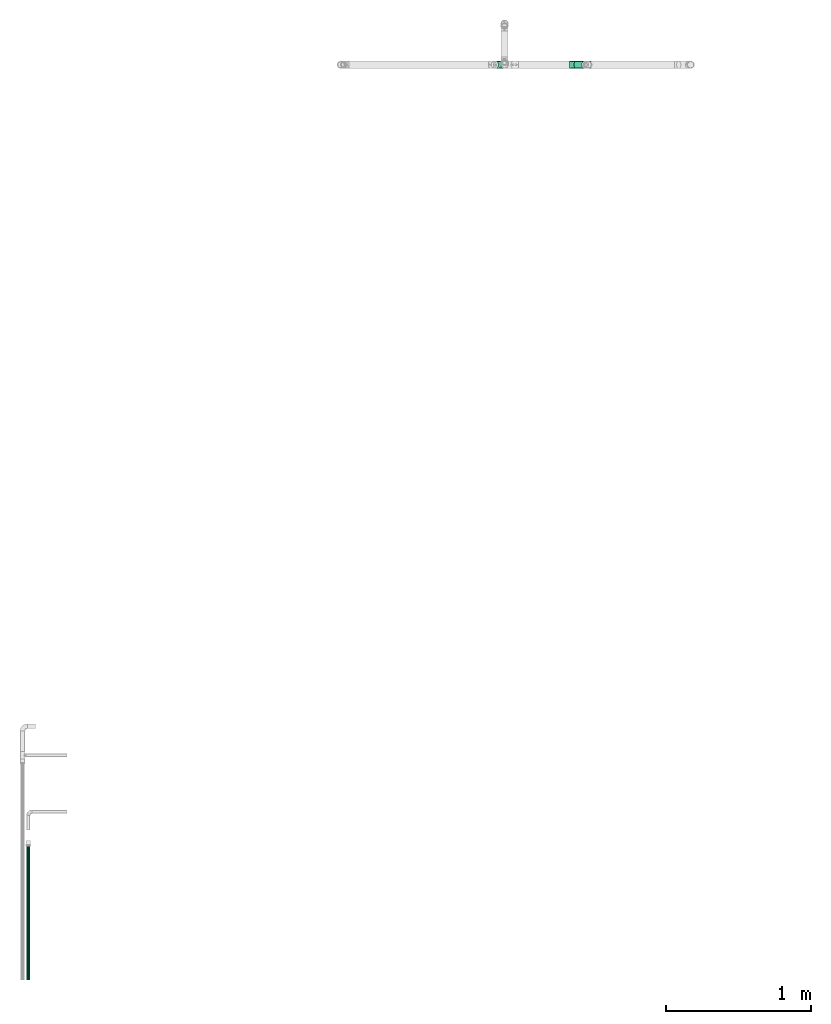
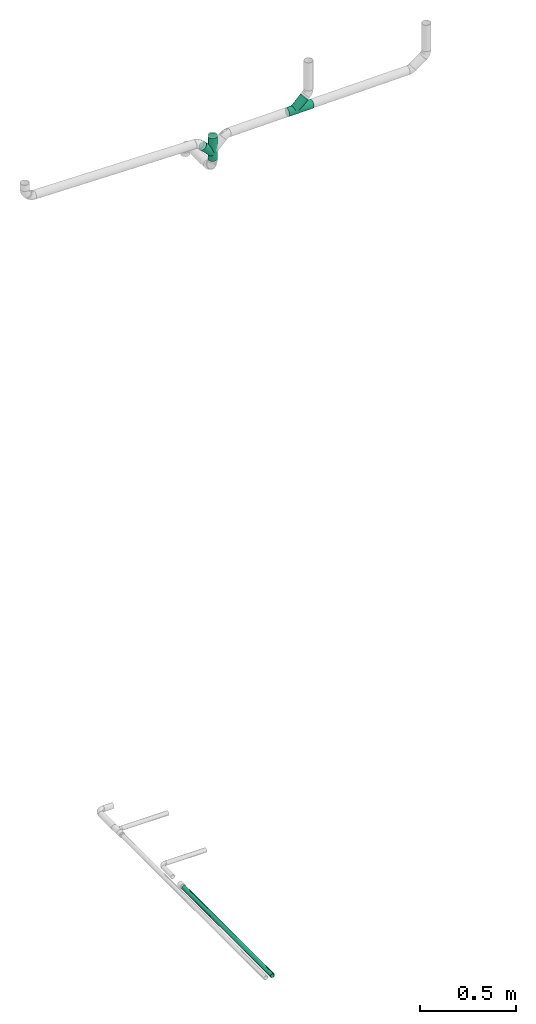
# One storey, part 11 of 13: 2 flow fittings, 1 flow segment.
"""IFC2X3 building model written with IfcOpenShell, lengths in millimetres."""

from ifc_helpers import new_model, entity, si_unit, converted_unit, derived_unit, direction, frame, origin_with_axes, place, context, subcontext, project, spatial, open_shell, faceted_brep, surface_model, source, transform, mapped, type_object, element, save


model = new_model("IFC2X3")

# Units and contexts
model_context = context("Model", 3, precision=0.01, world=frame((0.0, 4.29681676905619e-09, 0.0)), true_north=direction((4.01073788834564e-13, 1.0)))
plan_context = context("Plan", 3, precision=0.01, world=frame((0.0, 4.29681676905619e-09, 0.0)), true_north=direction((4.01073788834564e-13, 1.0)))
body_context = subcontext(model_context, "Body", "Model", "MODEL_VIEW")
ifc_project = project(units=[converted_unit("PLANEANGLEUNIT", "DEGREE", entity("IfcPositiveLengthMeasure", 0.0174532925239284), si_unit("PLANEANGLEUNIT", "RADIAN"), dimensions=[0, 0, 0, 0, 0, 0, 0]), si_unit("AREAUNIT", "SQUARE_METRE"), si_unit("LENGTHUNIT", "METRE", prefix="MILLI"), si_unit("MASSUNIT", "GRAM", prefix="KILO"), si_unit("POWERUNIT", "WATT"), si_unit("PRESSUREUNIT", "PASCAL", prefix="KILO"), si_unit("FORCEUNIT", "NEWTON", prefix="KILO"), si_unit("ELECTRICVOLTAGEUNIT", "VOLT"), si_unit("ELECTRICCURRENTUNIT", "AMPERE"), si_unit("THERMODYNAMICTEMPERATUREUNIT", "DEGREE_CELSIUS"), si_unit("TIMEUNIT", "SECOND"), si_unit("VOLUMEUNIT", "CUBIC_METRE"), derived_unit("LINEARVELOCITYUNIT", [(si_unit("LENGTHUNIT", "METRE"), 1), (si_unit("TIMEUNIT", "SECOND"), -1)]), derived_unit("VOLUMETRICFLOWRATEUNIT", [(si_unit("VOLUMEUNIT", "CUBIC_METRE"), 1), (si_unit("TIMEUNIT", "SECOND"), -1)]), derived_unit("THERMALTRANSMITTANCEUNIT", [(si_unit("POWERUNIT", "WATT"), 1), (si_unit("THERMODYNAMICTEMPERATUREUNIT", "KELVIN"), -1), (si_unit("AREAUNIT", "SQUARE_METRE"), -1)]), derived_unit("SOUNDPRESSUREUNIT", [(si_unit("PRESSUREUNIT", "PASCAL"), 1)])], contexts=[model_context, plan_context])

# Site, building, storey
site_placement = place(None, frame((0.0, -4.29681676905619e-09, 0.0), z_axis=(0.0, 0.0, 1.0), x_axis=(1.0, 0.0, 0.0)))
site = spatial("IfcSite", under=ifc_project, at=site_placement, Name="ENGM", CompositionType="ELEMENT")
building_placement = place(site_placement, frame((0.0, 4.29681676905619e-09, 0.0), z_axis=(0.0, 0.0, 1.0), x_axis=(1.0, 0.0, 0.0)))
building = spatial("IfcBuilding", under=site, at=building_placement, Name="TI", CompositionType="ELEMENT")
storey_placement = place(building_placement, frame((0.0, 0.0, 210900.0), z_axis=(0.0, 0.0, 1.0), x_axis=(1.0, 0.0, 0.0)))
storey = spatial("IfcBuildingStorey", under=building, at=storey_placement, Name="Nivå F", CompositionType="ELEMENT", Elevation=210900.0)

# Flow fittings
pipe_fitting_type = type_object("IfcPipeFittingType", Name="magi_sewer_tee_wye_NOR_2", PredefinedType="JUNCTION")
shared_shape_1 = source(origin_with_axes(), body_context, "Body", "SurfaceModel", [
    surface_model("IfcShellBasedSurfaceModel", [(103.03301, 6.47048, -24.14815), (103.03301, 12.5, -21.65064), (103.03301, 17.67767, -17.67767), (103.03301, 21.65064, -12.5), (103.03301, 24.14815, -6.47048), (103.03301, 0.0, -25.0), (103.03301, 25.0, 0.0), (103.03301, -12.5, -21.65064), (103.03301, -6.47048, -24.14815), (103.03301, -17.67767, -17.67767), (103.03301, -24.14815, -6.47048), (103.03301, -21.65064, -12.5), (103.03301, -24.14815, 6.47048), (103.03301, 24.14815, 6.47048), (103.03301, 21.65064, 12.5), (103.03301, 17.67767, 17.67767), (103.03301, 6.47048, 24.14815), (103.03301, 0.0, 25.0), (103.03301, 12.5, 21.65064), (103.03301, -17.67767, 17.67767), (103.03301, -21.65064, 12.5), (103.03301, -25.0, 0.0), (103.03301, -6.47048, 24.14815), (103.03301, -12.5, 21.65064), (-42.67767, 24.14815, 6.47048), (-42.67767, 0.0, 25.0), (-42.67767, 6.47048, 24.14815), (-42.67767, 12.5, 21.65064), (-42.67767, 17.67767, 17.67767), (-42.67767, 21.65064, 12.5), (-42.67767, -17.67767, 17.67767), (-42.67767, -6.47048, 24.14815), (-42.67767, -12.5, 21.65064), (-42.67767, -24.14815, 6.47048), (-42.67767, -21.65064, 12.5), (-42.67767, -12.5, -21.65064), (-42.67767, -24.14815, -6.47048), (-42.67767, -25.0, 0.0), (-42.67767, 24.14815, -6.47048), (-42.67767, 6.47048, -24.14815), (-42.67767, 21.65064, -12.5), (-42.67767, 17.67767, -17.67767), (-42.67767, 12.5, -21.65064), (-42.67767, -17.67767, -17.67767), (-42.67767, -21.65064, -12.5), (-42.67767, -6.47048, -24.14815), (-42.67767, 0.0, -25.0), (-42.67767, 25.0, 0.0), (-42.67767, -24.57407, -3.23524), (-10.13959, -24.47915, -5.07655), (-42.67767, -15.08884, -19.66415), (-5.59336, -13.50355, -21.03935), (-6.38305, -15.41004, -19.53546), (-10.24747, -24.73957, -2.53827), (-9.82347, -23.71596, -7.49232), (-42.67767, -22.89939, -9.48524), (-9.50735, -22.95277, -9.9081), (-7.17274, -17.31653, -18.03157), (-7.83599, -18.91774, -16.15674), (-42.67767, -19.66415, -15.08884), (-8.49923, -20.51895, -14.2819), (-1.9435, -4.69202, -24.55575), (-42.67767, -3.23524, -24.57407), (-9.00329, -21.73586, -12.095), (56.02352, -23.2057, -9.30029), (58.18943, -24.10285, -4.65015), (103.03301, -24.57407, -3.23524), (60.35534, -25.0, 0.0), (103.03301, -22.89939, -9.48524), (51.95736, -21.52144, -12.25748), (47.8912, -19.83718, -15.21467), (-10.35534, -25.0, 0.0), (-3.8286, -9.24306, -23.22856), (38.77265, -16.06016, -19.15911), (29.27032, -12.12416, -21.86332), (19.58893, -8.114, -23.64663), (-42.67767, -9.48524, -22.89939), (0.0, 0.0, -25.0), (9.81266, -4.06453, -24.66738), (-42.67767, -3.23524, 24.57407), (-1.9435, -4.69202, 24.55575), (0.0, 0.0, 25.0), (-3.8286, -9.24306, 23.22856), (-42.67767, -9.48524, 22.89939), (56.02352, -23.2057, 9.30029), (103.03301, -22.89939, 9.48524), (-42.67767, -19.66415, 15.08884), (-8.49923, -20.51895, 14.2819), (-7.83599, -18.91774, 16.15674), (103.03301, -24.57407, 3.23524), (58.18943, -24.10285, 4.65015), (9.81266, -4.06453, 24.66738), (19.58893, -8.114, 23.64663), (-5.59336, -13.50355, 21.03935), (-42.67767, -15.08884, 19.66415), (-7.17274, -17.31653, 18.03157), (-9.50735, -22.95277, 9.9081), (-9.00329, -21.73586, 12.095), (-6.38305, -15.41004, 19.53546), (-10.24747, -24.73957, 2.53827), (-42.67767, -22.89939, 9.48524), (-9.82347, -23.71596, 7.49232), (-10.13959, -24.47915, 5.07655), (-42.67767, -24.57407, 3.23524), (38.77265, -16.06016, 19.15911), (29.27032, -12.12416, 21.86332), (47.8912, -19.83718, 15.21467), (51.95736, -21.52144, 12.25748), (69.19418, -51.5165, 21.65064), (75.66465, -45.04603, 12.5), (72.85534, -47.85534, 17.67767), (42.67767, -78.03301, 0.0), (43.28003, -77.43066, 6.47048), (47.85535, -72.85534, 17.67767), (51.51651, -69.19417, 21.65064), (45.04603, -75.66465, 12.5), (55.78003, -64.93066, 24.14815), (77.73184, -42.97884, 3.23524), (78.03301, -42.67767, 0.0), (77.43066, -43.28002, 6.47048), (76.54765, -44.16302, 9.48524), (60.35535, -60.35534, 25.0), (64.93066, -55.78002, 24.14815), (77.43066, -43.28002, -6.47048), (77.73184, -42.97884, -3.23524), (72.85534, -47.85534, -17.67767), (69.19418, -51.5165, -21.65064), (76.54765, -44.16302, -9.48524), (75.66465, -45.04603, -12.5), (64.93066, -55.78002, -24.14815), (60.35535, -60.35534, -25.0), (55.78003, -64.93066, -24.14815), (51.51651, -69.19417, -21.65064), (45.04603, -75.66465, -12.5), (43.28003, -77.43066, -6.47048), (47.85535, -72.85534, -17.67767)], [open_shell([[[0, 1, 2]], [[0, 2, 3]], [[0, 4, 5]], [[4, 0, 3]], [[5, 4, 6]], [[5, 7, 8]], [[5, 6, 7]], [[9, 10, 11]], [[10, 9, 7]], [[7, 12, 10]], [[7, 6, 13]], [[13, 14, 15]], [[13, 15, 16]], [[16, 17, 13]], [[16, 15, 18]], [[13, 17, 19]], [[12, 19, 20]], [[21, 10, 12]], [[19, 22, 23]], [[7, 19, 12]], [[17, 22, 19]], [[7, 13, 19]], [[24, 25, 26]], [[24, 26, 27]], [[28, 29, 24]], [[28, 24, 27]], [[25, 24, 30]], [[31, 30, 32]], [[31, 25, 30]], [[30, 33, 34]], [[33, 30, 35]], [[36, 37, 33]], [[35, 30, 24]], [[24, 38, 35]], [[39, 38, 40]], [[41, 42, 39]], [[41, 39, 40]], [[35, 38, 39]], [[36, 43, 44]], [[43, 36, 35]], [[39, 45, 35]], [[36, 33, 35]], [[46, 45, 39]], [[38, 24, 47]], [[48, 36, 49]], [[50, 51, 52]], [[37, 48, 53]], [[54, 49, 36]], [[48, 49, 53]], [[55, 44, 56]], [[43, 50, 57]], [[58, 43, 57]], [[59, 58, 60]], [[61, 45, 62]], [[44, 63, 56]], [[50, 35, 51]], [[57, 50, 52]], [[43, 58, 59]], [[64, 10, 65]], [[66, 67, 65]], [[10, 64, 68]], [[69, 70, 11]], [[37, 53, 71]], [[60, 44, 59]], [[51, 35, 72]], [[73, 74, 7]], [[73, 9, 70]], [[9, 73, 7]], [[70, 9, 11]], [[74, 75, 7]], [[72, 35, 76]], [[54, 55, 56]], [[55, 54, 36]], [[65, 10, 66]], [[77, 61, 62]], [[72, 45, 61]], [[45, 72, 76]], [[62, 46, 77]], [[68, 69, 11]], [[77, 46, 39]], [[40, 38, 3]], [[1, 42, 41]], [[2, 41, 40]], [[39, 42, 0]], [[4, 38, 47]], [[78, 77, 5]], [[67, 66, 21]], [[78, 8, 75]], [[8, 78, 5]], [[8, 7, 75]], [[77, 0, 5]], [[69, 68, 64]], [[39, 0, 77]], [[1, 0, 42]], [[1, 41, 2]], [[3, 2, 40]], [[4, 3, 38]], [[47, 6, 4]], [[44, 60, 63]], [[28, 14, 29]], [[29, 14, 24]], [[13, 47, 24]], [[15, 28, 27]], [[79, 31, 80]], [[26, 25, 81]], [[80, 31, 82]], [[82, 31, 83]], [[27, 26, 18]], [[83, 32, 82]], [[84, 12, 85]], [[86, 87, 88]], [[13, 24, 14]], [[67, 89, 90]], [[18, 15, 27]], [[14, 28, 15]], [[6, 47, 13]], [[81, 25, 79]], [[81, 79, 80]], [[91, 92, 22]], [[81, 91, 17]], [[81, 17, 16]], [[17, 91, 22]], [[22, 92, 23]], [[16, 18, 26]], [[81, 16, 26]], [[93, 32, 94]], [[86, 34, 87]], [[30, 95, 94]], [[86, 88, 30]], [[34, 96, 97]], [[94, 98, 93]], [[34, 97, 87]], [[71, 99, 37]], [[94, 95, 98]], [[96, 100, 101]], [[102, 103, 99]], [[12, 84, 90]], [[101, 100, 33]], [[96, 34, 100]], [[30, 88, 95]], [[23, 104, 19]], [[104, 23, 105]], [[19, 104, 106]], [[102, 33, 103]], [[105, 23, 92]], [[33, 102, 101]], [[20, 106, 107]], [[37, 99, 103]], [[84, 85, 107]], [[85, 20, 107]], [[90, 89, 12]], [[106, 20, 19]], [[67, 21, 89]], [[93, 82, 32]], [[108, 109, 110]], [[102, 71, 111]], [[112, 102, 111]], [[113, 114, 93]], [[87, 115, 113]], [[96, 112, 115]], [[82, 114, 116]], [[67, 117, 118]], [[96, 102, 112]], [[87, 96, 115]], [[90, 119, 117]], [[93, 95, 113]], [[80, 82, 116]], [[93, 114, 82]], [[87, 113, 95]], [[107, 120, 84]], [[116, 121, 80]], [[91, 121, 122]], [[108, 105, 122]], [[120, 119, 84]], [[106, 110, 109]], [[104, 108, 110]], [[117, 67, 90]], [[105, 92, 122]], [[91, 81, 121]], [[92, 91, 122]], [[120, 107, 109]], [[90, 84, 119]], [[106, 104, 110]], [[107, 106, 109]], [[105, 108, 104]], [[121, 81, 80]], [[123, 65, 124]], [[118, 124, 67]], [[125, 126, 73]], [[127, 128, 69]], [[128, 70, 69]], [[125, 70, 128]], [[74, 126, 129]], [[64, 127, 69]], [[73, 70, 125]], [[75, 74, 129]], [[130, 77, 78]], [[75, 129, 78]], [[73, 126, 74]], [[123, 64, 65]], [[78, 129, 130]], [[61, 130, 131]], [[132, 72, 131]], [[133, 134, 56]], [[60, 135, 133]], [[51, 132, 135]], [[49, 134, 111]], [[57, 51, 135]], [[72, 61, 131]], [[51, 72, 132]], [[64, 123, 127]], [[71, 49, 111]], [[67, 124, 65]], [[56, 60, 133]], [[49, 56, 134]], [[57, 135, 60]], [[130, 61, 77]], [[130, 129, 126]], [[130, 126, 125]], [[130, 128, 134]], [[128, 130, 125]], [[118, 134, 128]], [[132, 133, 135]], [[134, 132, 131]], [[132, 134, 133]], [[131, 130, 134]], [[134, 112, 111]], [[118, 128, 123]], [[118, 119, 109]], [[113, 118, 109]], [[121, 109, 108]], [[121, 108, 122]], [[112, 113, 115]], [[134, 113, 112]], [[114, 121, 116]], [[121, 114, 113]], [[109, 121, 113]], [[113, 134, 118]]])]),
])
flow_fitting_1_placement = place(storey_placement, frame((588584.84459, 576030.74709, 202.588040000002), z_axis=(0.0, 1.0, 0.0), x_axis=(0.0, 0.0, 1.0)))
element("IfcFlowFitting", 1, at=flow_fitting_1_placement, inside=storey, type_object=pipe_fitting_type, Name="magi_sewer_tee_wye_NOR_2", context=body_context, shape_type="MappedRepresentation", body=[
    mapped(shared_shape_1, transform((0.0, 0.0, 0.0), scale=1.0)),
])
shared_shape_2 = source(origin_with_axes(), body_context, "Body", "SurfaceModel", [
    surface_model("IfcShellBasedSurfaceModel", [(104.77683, 6.47048, -24.14815), (104.77683, 12.5, -21.65064), (104.77683, 17.67767, -17.67767), (104.77683, 21.65064, -12.5), (104.77683, 24.14815, -6.47048), (104.77683, -12.5, -21.65064), (104.77683, -25.0, 0.0), (104.77683, -6.47048, -24.14815), (104.77683, 0.0, -25.0), (104.77683, -17.67767, -17.67767), (104.77683, -24.14815, -6.47048), (104.77683, -21.65064, -12.5), (104.77683, 24.14815, 6.47048), (104.77683, 25.0, 0.0), (104.77683, 21.65064, 12.5), (104.77683, 17.67767, 17.67767), (104.77683, 0.0, 25.0), (104.77683, 6.47048, 24.14815), (104.77683, 12.5, 21.65064), (104.77683, -17.67767, 17.67767), (104.77683, -24.14815, 6.47048), (104.77683, -21.65064, 12.5), (104.77683, -6.47048, 24.14815), (104.77683, -12.5, 21.65064), (-42.38063, 24.14815, 6.47048), (-42.38063, 0.0, 25.0), (-42.38063, 6.47048, 24.14815), (-42.38063, 12.5, 21.65064), (-42.38063, 17.67767, 17.67767), (-42.38063, 21.65064, 12.5), (-42.38063, -17.67767, 17.67767), (-42.38063, -6.47048, 24.14815), (-42.38063, -12.5, 21.65064), (-42.38063, -24.14815, 6.47048), (-42.38063, -21.65064, 12.5), (-42.38063, -12.5, -21.65064), (-42.38063, -24.14815, -6.47048), (-42.38063, -25.0, 0.0), (-42.38063, 24.14815, -6.47048), (-42.38063, 6.47048, -24.14815), (-42.38063, 21.65064, -12.5), (-42.38063, 17.67767, -17.67767), (-42.38063, 12.5, -21.65064), (-42.38063, -17.67767, -17.67767), (-42.38063, -21.65064, -12.5), (-42.38063, -6.47048, -24.14815), (-42.38063, 0.0, -25.0), (-42.38063, 25.0, 0.0), (-42.38063, -24.57407, -3.23524), (-9.90218, -24.48097, -5.06774), (-42.38063, -15.08884, -19.66415), (-5.46835, -13.5193, -21.02923), (-6.23939, -15.42553, -19.52308), (-10.00715, -24.74049, -2.53387), (-9.59441, -23.72007, -7.48049), (-8.79547, -21.74487, -12.07922), (-42.38063, -22.89939, -9.48524), (-7.01043, -17.33176, -18.01694), (-7.65737, -18.93116, -16.14107), (-42.38063, -19.66415, -15.08884), (-8.3043, -20.53057, -14.26519), (-1.9008, -4.69931, -24.55436), (-42.38063, -3.23524, -24.57407), (-9.28663, -22.95917, -9.89325), (57.2869, -23.17168, -9.38474), (59.54697, -24.08584, -4.69237), (104.77683, -24.57407, -3.23524), (61.80703, -25.0, 0.0), (104.77683, -22.89939, -9.48524), (53.10138, -21.4787, -12.33314), (48.91586, -19.78572, -15.28154), (-10.11212, -25.0, 0.0), (-3.74393, -9.25604, -23.22338), (39.58, -16.0095, -19.20145), (29.87029, -12.08208, -21.8866), (19.98683, -8.08437, -23.65678), (-42.38063, -9.48524, -22.89939), (0.0, 0.0, -25.0), (10.01104, -4.04931, -24.66988), (-42.38063, -3.23524, 24.57407), (-1.9008, -4.69931, 24.55436), (0.0, 0.0, 25.0), (-3.74393, -9.25604, 23.22338), (-42.38063, -9.48524, 22.89939), (57.2869, -23.17168, 9.38474), (104.77683, -22.89939, 9.48524), (-42.38063, -19.66415, 15.08884), (-8.3043, -20.53057, 14.26519), (-7.65737, -18.93116, 16.14107), (104.77683, -24.57407, 3.23524), (59.54697, -24.08584, 4.69237), (10.01104, -4.04931, 24.66988), (19.98683, -8.08437, 23.65678), (-5.46835, -13.5193, 21.02923), (-42.38063, -15.08884, 19.66415), (-7.01043, -17.33176, 18.01694), (-42.38063, -22.89939, 9.48524), (-8.79547, -21.74487, 12.07922), (-6.23939, -15.42553, 19.52308), (-10.00715, -24.74049, 2.53387), (-9.28663, -22.95917, 9.89325), (-9.59441, -23.72007, 7.48049), (-9.90218, -24.48097, 5.06774), (-42.38063, -24.57407, 3.23524), (39.58, -16.0095, 19.20145), (29.87029, -12.08208, 21.8866), (48.91586, -19.78572, 15.28154), (53.10138, -21.4787, 12.33314), (66.89465, -55.6995, -24.14815), (57.89777, -65.00136, -24.14815), (62.39621, -60.35043, -25.0), (74.68617, -47.64386, -17.67767), (71.08652, -51.36553, -21.65064), (77.44827, -44.78812, 12.5), (77.44827, -44.78812, -12.5), (45.01558, -78.32023, 0.0), (47.34414, -75.91274, 12.5), (53.70589, -69.33533, -21.65064), (47.34414, -75.91274, -12.5), (50.10625, -73.057, -17.67767), (45.60781, -77.70793, -6.47048), (79.1846, -42.99293, -6.47048), (79.77683, -42.38063, 0.0), (79.1846, -42.99293, 6.47048), (71.08652, -51.36553, 21.65064), (74.68617, -47.64386, 17.67767), (62.39621, -60.35043, 25.0), (66.89465, -55.6995, 24.14815), (50.10625, -73.057, 17.67767), (45.60781, -77.70793, 6.47048), (57.89777, -65.00136, 24.14815), (53.70589, -69.33533, 21.65064), (79.48072, -42.68678, 3.23524), (78.31644, -43.89053, 9.48524), (79.48072, -42.68678, -3.23524), (78.31644, -43.89053, -9.48524)], [open_shell([[[0, 1, 2]], [[0, 2, 3]], [[0, 4, 5]], [[4, 0, 3]], [[6, 5, 4]], [[0, 7, 8]], [[0, 5, 7]], [[9, 10, 11]], [[10, 9, 5]], [[5, 6, 10]], [[12, 4, 13]], [[12, 14, 15]], [[12, 15, 16]], [[17, 16, 15]], [[17, 15, 18]], [[12, 16, 19]], [[20, 19, 21]], [[20, 6, 12]], [[19, 22, 23]], [[20, 12, 19]], [[16, 22, 19]], [[12, 6, 4]], [[24, 25, 26]], [[24, 26, 27]], [[28, 29, 24]], [[28, 24, 27]], [[25, 24, 30]], [[31, 30, 32]], [[31, 25, 30]], [[30, 33, 34]], [[33, 30, 35]], [[36, 37, 33]], [[35, 30, 24]], [[24, 38, 35]], [[39, 38, 40]], [[41, 42, 39]], [[41, 39, 40]], [[35, 38, 39]], [[36, 43, 44]], [[43, 36, 35]], [[39, 45, 35]], [[36, 33, 35]], [[46, 45, 39]], [[38, 24, 47]], [[48, 36, 49]], [[50, 51, 52]], [[37, 48, 53]], [[54, 49, 36]], [[48, 49, 53]], [[44, 55, 56]], [[43, 50, 57]], [[58, 43, 57]], [[59, 58, 60]], [[61, 45, 62]], [[55, 63, 56]], [[50, 35, 51]], [[57, 50, 52]], [[43, 58, 59]], [[64, 10, 65]], [[66, 67, 65]], [[10, 64, 68]], [[69, 70, 11]], [[37, 53, 71]], [[60, 44, 59]], [[51, 35, 72]], [[73, 74, 5]], [[73, 9, 70]], [[9, 73, 5]], [[70, 9, 11]], [[74, 75, 5]], [[72, 35, 76]], [[54, 56, 63]], [[56, 54, 36]], [[65, 10, 66]], [[77, 61, 62]], [[72, 45, 61]], [[45, 72, 76]], [[62, 46, 77]], [[68, 69, 11]], [[77, 46, 39]], [[40, 38, 3]], [[1, 42, 41]], [[2, 41, 40]], [[39, 42, 0]], [[4, 38, 47]], [[78, 77, 8]], [[67, 66, 6]], [[78, 7, 75]], [[7, 78, 8]], [[7, 5, 75]], [[77, 0, 8]], [[69, 68, 64]], [[39, 0, 77]], [[1, 0, 42]], [[1, 41, 2]], [[3, 2, 40]], [[4, 3, 38]], [[47, 13, 4]], [[44, 60, 55]], [[28, 14, 29]], [[29, 14, 24]], [[12, 47, 24]], [[15, 28, 27]], [[79, 31, 80]], [[26, 25, 81]], [[80, 31, 82]], [[82, 31, 83]], [[27, 26, 18]], [[83, 32, 82]], [[84, 20, 85]], [[86, 87, 88]], [[12, 24, 14]], [[67, 89, 90]], [[18, 15, 27]], [[14, 28, 15]], [[13, 47, 12]], [[81, 25, 79]], [[81, 79, 80]], [[91, 92, 22]], [[81, 91, 16]], [[81, 16, 17]], [[16, 91, 22]], [[22, 92, 23]], [[17, 18, 26]], [[81, 17, 26]], [[93, 32, 94]], [[86, 34, 87]], [[30, 95, 94]], [[86, 88, 30]], [[96, 97, 34]], [[94, 98, 93]], [[34, 97, 87]], [[71, 99, 37]], [[94, 95, 98]], [[100, 96, 101]], [[102, 103, 99]], [[20, 84, 90]], [[101, 96, 33]], [[97, 96, 100]], [[30, 88, 95]], [[23, 104, 19]], [[104, 23, 105]], [[19, 104, 106]], [[102, 33, 103]], [[105, 23, 92]], [[33, 102, 101]], [[21, 106, 107]], [[37, 99, 103]], [[84, 85, 107]], [[85, 21, 107]], [[90, 89, 20]], [[106, 21, 19]], [[67, 6, 89]], [[93, 82, 32]], [[108, 109, 110]], [[111, 108, 112]], [[113, 111, 114]], [[115, 108, 116]], [[108, 111, 113]], [[117, 118, 119]], [[117, 109, 108]], [[118, 115, 120]], [[115, 118, 117]], [[108, 115, 117]], [[113, 114, 121]], [[122, 123, 113]], [[113, 124, 108]], [[108, 124, 116]], [[124, 113, 125]], [[126, 124, 127]], [[124, 128, 116]], [[129, 115, 116]], [[128, 130, 131]], [[124, 130, 128]], [[126, 130, 124]], [[121, 122, 113]], [[102, 71, 115]], [[129, 102, 115]], [[128, 131, 93]], [[87, 116, 128]], [[100, 129, 116]], [[82, 131, 130]], [[67, 132, 122]], [[100, 102, 129]], [[87, 100, 116]], [[90, 123, 132]], [[93, 95, 128]], [[80, 82, 130]], [[93, 131, 82]], [[87, 128, 95]], [[84, 113, 133]], [[130, 126, 80]], [[91, 126, 127]], [[124, 105, 127]], [[133, 123, 84]], [[106, 125, 113]], [[104, 124, 125]], [[132, 67, 90]], [[105, 92, 127]], [[91, 81, 126]], [[92, 91, 127]], [[113, 84, 107]], [[90, 84, 123]], [[106, 104, 125]], [[107, 106, 113]], [[105, 124, 104]], [[126, 81, 80]], [[121, 65, 134]], [[122, 134, 67]], [[111, 112, 73]], [[64, 135, 114]], [[114, 70, 69]], [[111, 70, 114]], [[74, 112, 108]], [[69, 64, 114]], [[73, 70, 111]], [[75, 74, 108]], [[110, 77, 78]], [[75, 108, 78]], [[73, 112, 74]], [[121, 64, 65]], [[78, 108, 110]], [[61, 110, 109]], [[117, 72, 109]], [[118, 120, 63]], [[60, 119, 118]], [[51, 117, 119]], [[49, 120, 115]], [[57, 51, 119]], [[72, 61, 109]], [[51, 72, 117]], [[64, 121, 135]], [[71, 49, 115]], [[67, 134, 65]], [[63, 60, 118]], [[49, 63, 120]], [[57, 119, 60]], [[110, 61, 77]]])]),
])
flow_fitting_2_placement = place(storey_placement, frame((589074.06852, 576030.74709, 299.339639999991), z_axis=(0.0, 1.0, 0.0), x_axis=(0.999861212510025, 0.0, 0.0166600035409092)))
element("IfcFlowFitting", 2, at=flow_fitting_2_placement, inside=storey, type_object=pipe_fitting_type, Name="magi_sewer_tee_wye_NOR_2", context=body_context, shape_type="MappedRepresentation", body=[
    mapped(shared_shape_2, transform((0.0, 0.0, 0.0), scale=1.0)),
])

# Flow segment
pipe_segment_type = type_object("IfcPipeSegmentType", Name="Stålrør normaltykke", PredefinedType="RIGIDSEGMENT")
flow_segment_placement = place(storey_placement, frame((585306.17776, 570651.24678, -48.6000000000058), z_axis=(0.0, 0.0, 1.0), x_axis=(0.0, -1.0, 0.0)))
element("IfcFlowSegment", 3, at=flow_segment_placement, inside=storey, type_object=pipe_segment_type, Name="Stålrør normaltykke", context=body_context, shape_type="Brep", body=[
    faceted_brep([(921.248648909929, 11.3, 0.0), (921.248648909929, 11.128327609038, -1.96222440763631), (0.0, 11.128327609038, -1.96222440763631), (0.0, 11.3, 0.0), (921.248648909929, 10.6185266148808, -3.86482761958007), (0.0, 10.6185266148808, -3.86482761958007), (921.248648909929, 9.78608706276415, -5.65000000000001), (0.0, 9.78608706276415, -5.65000000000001), (921.248648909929, 8.65630220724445, -7.2634999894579), (0.0, 8.65630220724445, -7.2634999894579), (921.248648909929, 7.26349998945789, -8.65630220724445), (0.0, 7.26349998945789, -8.65630220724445), (921.248648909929, 5.65, -9.78608706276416), (0.0, 5.65, -9.78608706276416), (921.248648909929, 3.86482761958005, -10.6185266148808), (0.0, 3.86482761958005, -10.6185266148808), (921.248648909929, 1.96222440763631, -11.128327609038), (0.0, 1.96222440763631, -11.128327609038), (921.248648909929, -2.07577632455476e-15, -11.3), (0.0, -2.07577632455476e-15, -11.3), (921.248648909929, -1.96222440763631, -11.128327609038), (0.0, -1.96222440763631, -11.128327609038), (921.248648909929, -3.86482761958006, -10.6185266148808), (0.0, -3.86482761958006, -10.6185266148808), (921.248648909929, -5.65000000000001, -9.78608706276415), (0.0, -5.65000000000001, -9.78608706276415), (921.248648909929, -7.2634999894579, -8.65630220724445), (0.0, -7.2634999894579, -8.65630220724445), (921.248648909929, -8.65630220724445, -7.26349998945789), (0.0, -8.65630220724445, -7.26349998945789), (921.248648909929, -9.78608706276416, -5.65), (0.0, -9.78608706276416, -5.65), (921.248648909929, -10.6185266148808, -3.86482761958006), (0.0, -10.6185266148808, -3.86482761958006), (921.248648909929, -11.128327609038, -1.96222440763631), (0.0, -11.128327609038, -1.96222440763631), (921.248648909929, -11.3, 1.38385088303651e-15), (0.0, -11.3, 1.38385088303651e-15), (921.248648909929, -11.128327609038, 1.96222440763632), (0.0, -11.128327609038, 1.96222440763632), (921.248648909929, -10.6185266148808, 3.86482761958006), (0.0, -10.6185266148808, 3.86482761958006), (921.248648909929, -9.78608706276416, 5.65), (0.0, -9.78608706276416, 5.65), (921.248648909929, -8.65630220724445, 7.2634999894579), (0.0, -8.65630220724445, 7.2634999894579), (921.248648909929, -7.26349998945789, 8.65630220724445), (0.0, -7.2634999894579, 8.65630220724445), (921.248648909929, -5.65, 9.78608706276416), (0.0, -5.65, 9.78608706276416), (921.248648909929, -3.86482761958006, 10.6185266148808), (0.0, -3.86482761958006, 10.6185266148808), (921.248648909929, -1.96222440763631, 11.128327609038), (0.0, -1.96222440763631, 11.128327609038), (921.248648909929, 6.91925441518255e-16, 11.3), (0.0, 6.91925441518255e-16, 11.3), (921.248648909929, 1.96222440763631, 11.128327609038), (0.0, 1.96222440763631, 11.128327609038), (921.248648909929, 3.86482761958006, 10.6185266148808), (0.0, 3.86482761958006, 10.6185266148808), (921.248648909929, 5.65, 9.78608706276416), (0.0, 5.65, 9.78608706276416), (921.248648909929, 7.26349998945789, 8.65630220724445), (0.0, 7.2634999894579, 8.65630220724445), (921.248648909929, 8.65630220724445, 7.26349998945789), (0.0, 8.65630220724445, 7.26349998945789), (921.248648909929, 9.78608706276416, 5.65), (0.0, 9.78608706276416, 5.65), (921.248648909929, 10.6185266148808, 3.86482761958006), (0.0, 10.6185266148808, 3.86482761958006), (921.248648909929, 11.128327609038, 1.96222440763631), (0.0, 11.128327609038, 1.96222440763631), (921.248648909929, 13.0979431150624, -2.30952076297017), (921.248648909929, 13.3, 0.0), (0.0, 13.3, 0.0), (0.0, 13.0979431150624, -2.30952076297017), (921.248648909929, 13.0979431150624, 2.30952076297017), (0.0, 13.0979431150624, 2.30952076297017), (921.248648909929, 12.4979118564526, 4.54886790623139), (0.0, 12.4979118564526, 4.54886790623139), (921.248648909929, 11.518137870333, 6.65), (0.0, 11.518137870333, 6.65), (921.248648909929, 10.1883910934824, 8.54907520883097), (0.0, 10.1883910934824, 8.54907520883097), (921.248648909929, 8.54907520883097, 10.1883910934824), (0.0, 8.54907520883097, 10.1883910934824), (921.248648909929, 6.65, 11.518137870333), (0.0, 6.65, 11.518137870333), (921.248648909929, 4.5488679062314, 12.4979118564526), (0.0, 4.5488679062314, 12.4979118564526), (921.248648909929, 2.30952076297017, 13.0979431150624), (0.0, 2.30952076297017, 13.0979431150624), (921.248648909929, 8.1439012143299e-16, 13.3), (0.0, 8.1439012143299e-16, 13.3), (921.248648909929, -2.30952076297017, 13.0979431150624), (0.0, -2.30952076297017, 13.0979431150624), (921.248648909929, -4.54886790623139, 12.4979118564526), (0.0, -4.54886790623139, 12.4979118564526), (921.248648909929, -6.65, 11.518137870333), (0.0, -6.65, 11.518137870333), (921.248648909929, -8.54907520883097, 10.1883910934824), (0.0, -8.54907520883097, 10.1883910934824), (921.248648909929, -10.1883910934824, 8.54907520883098), (0.0, -10.1883910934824, 8.54907520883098), (921.248648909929, -11.518137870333, 6.65), (0.0, -11.518137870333, 6.65), (921.248648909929, -12.4979118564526, 4.5488679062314), (0.0, -12.4979118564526, 4.5488679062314), (921.248648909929, -13.0979431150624, 2.30952076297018), (0.0, -13.0979431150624, 2.30952076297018), (921.248648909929, -13.3, 1.62878024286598e-15), (0.0, -13.3, 1.62878024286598e-15), (921.248648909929, -13.0979431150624, -2.30952076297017), (0.0, -13.0979431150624, -2.30952076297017), (921.248648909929, -12.4979118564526, -4.54886790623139), (0.0, -12.4979118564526, -4.54886790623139), (921.248648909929, -11.518137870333, -6.65), (0.0, -11.518137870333, -6.65), (921.248648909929, -10.1883910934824, -8.54907520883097), (0.0, -10.1883910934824, -8.54907520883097), (921.248648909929, -8.54907520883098, -10.1883910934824), (0.0, -8.54907520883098, -10.1883910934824), (921.248648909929, -6.65000000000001, -11.518137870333), (0.0, -6.65000000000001, -11.518137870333), (921.248648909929, -4.5488679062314, -12.4979118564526), (0.0, -4.5488679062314, -12.4979118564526), (921.248648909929, -2.30952076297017, -13.0979431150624), (0.0, -2.30952076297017, -13.0979431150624), (921.248648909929, -2.44317036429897e-15, -13.3), (0.0, -2.44317036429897e-15, -13.3), (921.248648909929, 2.30952076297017, -13.0979431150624), (0.0, 2.30952076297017, -13.0979431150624), (921.248648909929, 4.54886790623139, -12.4979118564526), (0.0, 4.54886790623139, -12.4979118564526), (921.248648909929, 6.65, -11.518137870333), (0.0, 6.65, -11.518137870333), (921.248648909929, 8.54907520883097, -10.1883910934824), (0.0, 8.54907520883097, -10.1883910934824), (921.248648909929, 10.1883910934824, -8.54907520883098), (0.0, 10.1883910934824, -8.54907520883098), (921.248648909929, 11.518137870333, -6.65000000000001), (0.0, 11.518137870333, -6.65000000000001), (921.248648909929, 12.4979118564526, -4.5488679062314), (0.0, 12.4979118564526, -4.5488679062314)], [[[0, 1, 2, 3]], [[1, 4, 5, 2]], [[4, 6, 7, 5]], [[6, 8, 9, 7]], [[8, 10, 11, 9]], [[10, 12, 13, 11]], [[12, 14, 15, 13]], [[14, 16, 17, 15]], [[16, 18, 19, 17]], [[18, 20, 21, 19]], [[20, 22, 23, 21]], [[22, 24, 25, 23]], [[24, 26, 27, 25]], [[26, 28, 29, 27]], [[28, 30, 31, 29]], [[30, 32, 33, 31]], [[32, 34, 35, 33]], [[34, 36, 37, 35]], [[36, 38, 39, 37]], [[38, 40, 41, 39]], [[40, 42, 43, 41]], [[42, 44, 45, 43]], [[44, 46, 47, 45]], [[46, 48, 49, 47]], [[48, 50, 51, 49]], [[50, 52, 53, 51]], [[52, 54, 55, 53]], [[54, 56, 57, 55]], [[56, 58, 59, 57]], [[58, 60, 61, 59]], [[60, 62, 63, 61]], [[62, 64, 65, 63]], [[64, 66, 67, 65]], [[66, 68, 69, 67]], [[68, 70, 71, 69]], [[70, 0, 3, 71]], [[72, 73, 74, 75]], [[73, 76, 77, 74]], [[76, 78, 79, 77]], [[78, 80, 81, 79]], [[80, 82, 83, 81]], [[82, 84, 85, 83]], [[84, 86, 87, 85]], [[86, 88, 89, 87]], [[88, 90, 91, 89]], [[90, 92, 93, 91]], [[92, 94, 95, 93]], [[94, 96, 97, 95]], [[96, 98, 99, 97]], [[98, 100, 101, 99]], [[100, 102, 103, 101]], [[102, 104, 105, 103]], [[104, 106, 107, 105]], [[106, 108, 109, 107]], [[108, 110, 111, 109]], [[110, 112, 113, 111]], [[112, 114, 115, 113]], [[114, 116, 117, 115]], [[116, 118, 119, 117]], [[118, 120, 121, 119]], [[120, 122, 123, 121]], [[122, 124, 125, 123]], [[124, 126, 127, 125]], [[126, 128, 129, 127]], [[128, 130, 131, 129]], [[130, 132, 133, 131]], [[132, 134, 135, 133]], [[134, 136, 137, 135]], [[136, 138, 139, 137]], [[138, 140, 141, 139]], [[140, 142, 143, 141]], [[142, 72, 75, 143]], [[75, 74, 77, 79, 81, 83, 85, 87, 89, 91, 93, 95, 97, 99, 101, 103, 105, 107, 109, 111, 113, 115, 117, 119, 121, 123, 125, 127, 129, 131, 133, 135, 137, 139, 141, 143], [3, 2, 5, 7, 9, 11, 13, 15, 17, 19, 21, 23, 25, 27, 29, 31, 33, 35, 37, 39, 41, 43, 45, 47, 49, 51, 53, 55, 57, 59, 61, 63, 65, 67, 69, 71]], [[142, 140, 138, 136, 134, 132, 130, 128, 126, 124, 122, 120, 118, 116, 114, 112, 110, 108, 106, 104, 102, 100, 98, 96, 94, 92, 90, 88, 86, 84, 82, 80, 78, 76, 73, 72], [70, 68, 66, 64, 62, 60, 58, 56, 54, 52, 50, 48, 46, 44, 42, 40, 38, 36, 34, 32, 30, 28, 26, 24, 22, 20, 18, 16, 14, 12, 10, 8, 6, 4, 1, 0]]], orient=[[False], [False], [False], [False], [False], [False], [False], [False], [False], [False], [False], [False], [False], [False], [False], [False], [False], [False], [False], [False], [False], [False], [False], [False], [False], [False], [False], [False], [False], [False], [False], [False], [False], [False], [False], [False], [False], [False], [False], [False], [False], [False], [False], [False], [False], [False], [False], [False], [False], [False], [False], [False], [False], [False], [False], [False], [False], [False], [False], [False], [False], [False], [False], [False], [False], [False], [False], [False], [False], [False], [False], [False], [False, False], [False, False]]),
])

save(model, "model.ifc")
